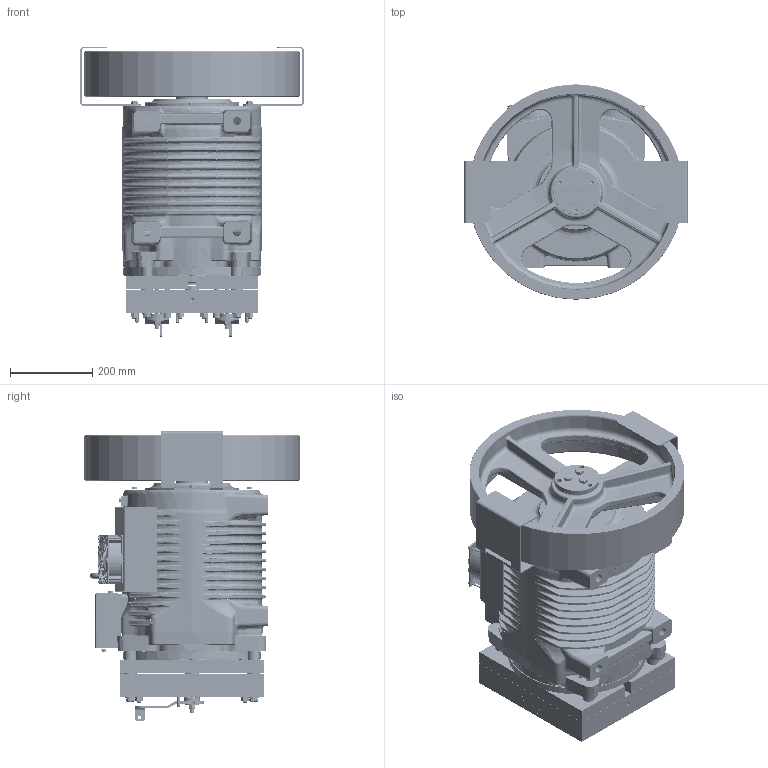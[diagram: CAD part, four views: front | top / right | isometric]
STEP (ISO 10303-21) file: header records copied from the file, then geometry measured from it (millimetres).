
FILE_DESCRIPTION((''),'2;1');
FILE_NAME('00363588_ASM','2020-06-08T',('furlanis'),('Sicor spa'),'CREO PARAMETRIC BY PTC INC, 2017170','CREO PARAMETRIC BY PTC INC, 2017170','');
FILE_SCHEMA(('CONFIG_CONTROL_DESIGN'));
Products named in the file (18): SG48; _520; _520_110; 00073486; TEM12X45_VIT0222; 00255325; M4_FTT_C; 00257514_ASM; 00002908; 00002901; 00002909_ASM; 00002902; 00042420_M4X50; TEM6X12_VIR0184; 00000263; 00257517_ASM; RTW800_MIT_HL; 00363588_ASM
Assembly tree (37 placements, depth 4):
  00363588_ASM
    SG48
    _520  x2
    _520_110
    00073486
    TEM12X45_VIT0222  x3
    00257517_ASM
      00257514_ASM
        00255325
        M4_FTT_C  x8
      00002909_ASM  x2
        00002908
        00002901
      00002902  x2
      00042420_M4X50  x8
      TEM6X12_VIR0184  x2
      00000263
    RTW800_MIT_HL
Bounding box: 543 x 524 x 704.34 mm (x, y, z)
Volume: 19368665.9 mm3; surface area: 3703991.3 mm2
Topology: 35 solids, 289 shells, 9014 faces, 26160 edges, 17359 vertices
Faces by surface type: plane 4496, cylinder 1901, bspline 1131, cone 725, torus 701, sphere 48, revolution 12
Entity records: 378455 total; most frequent: CARTESIAN_POINT 170193, ORIENTED_EDGE 44044, DIRECTION 38629, EDGE_CURVE 24496, VERTEX_POINT 16382, VECTOR 13901, LINE 13901, AXIS2_PLACEMENT_3D 12358
